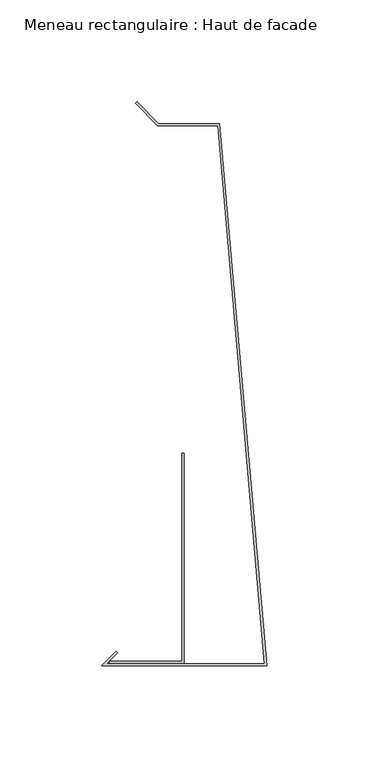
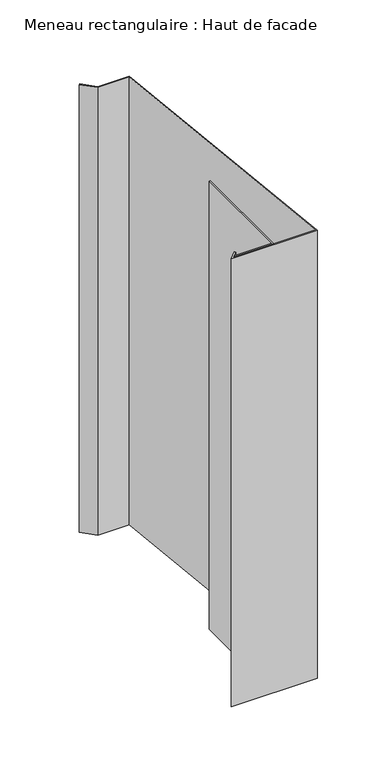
"""IFC4 building model written with IfcOpenShell, lengths in millimetres: member geometry, Meneau rectangulaire : Haut de facade."""

from ifc_helpers import new_model, si_unit, frame, origin, place, context, project, spatial, polyline, outline, extrude, source, transform, mapped, element, save


def meneau_rectangulaire_haut_de_facade_b5049156(model_context):
    return source(origin(), model_context, "Body", "SweptSolid", [
        extrude(outline(polyline([(-24.0647895, 160.703755), (-53.5626719, 160.703755), (-64.4621669, 171.6032499), (-63.7550601, 172.3103567), (-53.1484584, 161.703755), (-23.1484584, 161.703755), (0.0, -104.2), (-81.0, -104.2), (-73.9289322, -97.1289322), (-73.2218254, -97.836039), (-78.5857864, -103.2), (-1.0913085, -103.2), (-24.0647895, 160.703755)])), frame((0.0, 0.0, -445.0), z_axis=(0.0, 0.0, 1.0), x_axis=(1.0, 0.0, 0.0)), (0.0, 0.0, 1.0), 445.0),
        extrude(outline(polyline([(-40.5477541, -102.9846816), (-77.0752814, -102.9846816), (-77.0752814, -101.9846816), (-41.5477541, -101.9846816), (-41.5477541, -0.0384227), (-40.5477541, -0.0384227), (-40.5477541, -102.9846816)])), frame((0.0, 0.0, -445.0), z_axis=(0.0, 0.0, 1.0), x_axis=(1.0, 0.0, 0.0)), (0.0, 0.0, 1.0), 445.0),
    ])


if __name__ == "__main__":
    model = new_model("IFC4")
    model_context = context("Model", 3, world=origin())
    ifc_project = project(units=[si_unit("LENGTHUNIT", "METRE", prefix="MILLI")], contexts=[model_context])
    site = spatial("IfcSite", under=ifc_project)
    building = spatial("IfcBuilding", under=site)
    placement = place(None, origin())
    meneau_rectangulaire_haut_de_facade_shape = meneau_rectangulaire_haut_de_facade_b5049156(model_context)
    element("IfcMember", 1, ObjectType="Meneau rectangulaire : Haut de facade", at=placement, inside=building, context=model_context, shape_type="MappedRepresentation", body=[
        mapped(meneau_rectangulaire_haut_de_facade_shape, transform((0.0, 0.0, 0.0), x_axis=(1.0, 0.0, 0.0), y_axis=(0.0, 1.0, 0.0), z_axis=(0.0, 0.0, 1.0))),
    ])
    save(model, "model.ifc")
